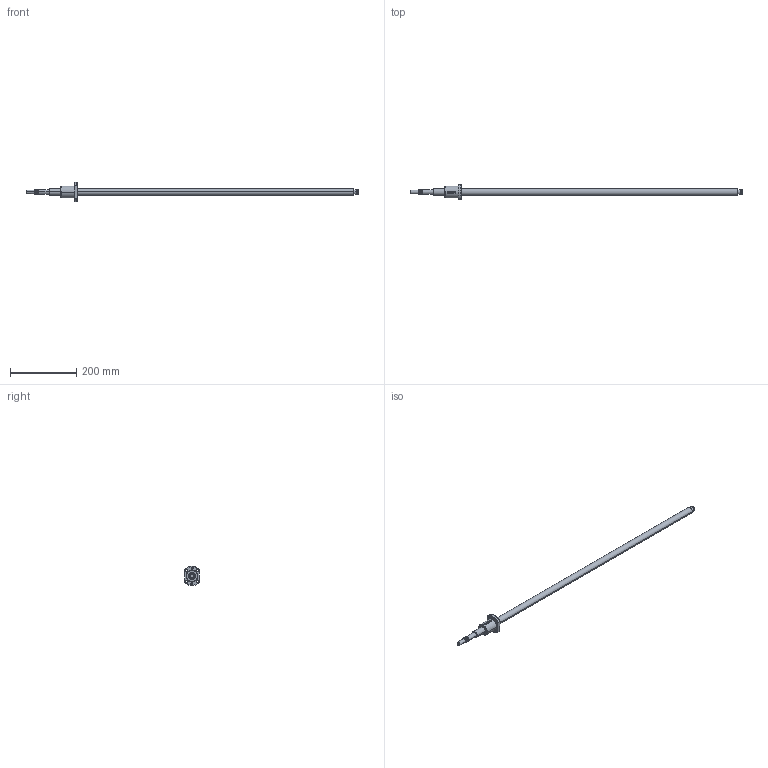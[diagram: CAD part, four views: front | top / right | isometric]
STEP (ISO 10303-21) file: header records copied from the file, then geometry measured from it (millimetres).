
FILE_DESCRIPTION (( 'STEP AP214' ), '1' );
FILE_NAME ('7.3004 STNUR2005-1000mm.STEP', '2026-02-03T12:27:02', ( '' ), ( '' ), 'SwSTEP 2.0', 'SolidWorks 2025', '' );
FILE_SCHEMA (( 'AUTOMOTIVE_DESIGN' ));
Length unit declared in the file: millimetre
Products named in the file (3): 7.3004 STNUR2005-1000mm; STU02005
Assembly tree (2 placements, depth 2):
  7.3004 STNUR2005-1000mm
    STU02005
    7.3004 STNUR2005-1000mm
Bounding box: 1000 x 44.6 x 57.99 mm (x, y, z)
Volume: 341053.2 mm3; surface area: 77051.5 mm2
Topology: 3 solids, 3 shells, 152 faces, 383 edges, 252 vertices
Faces by surface type: cylinder 71, plane 36, bspline 29, cone 9, torus 7
Entity records: 14238 total; most frequent: CARTESIAN_POINT 10713, ORIENTED_EDGE 766, DIRECTION 620, EDGE_CURVE 383, VERTEX_POINT 252, AXIS2_PLACEMENT_3D 227, EDGE_LOOP 183, VECTOR 166
